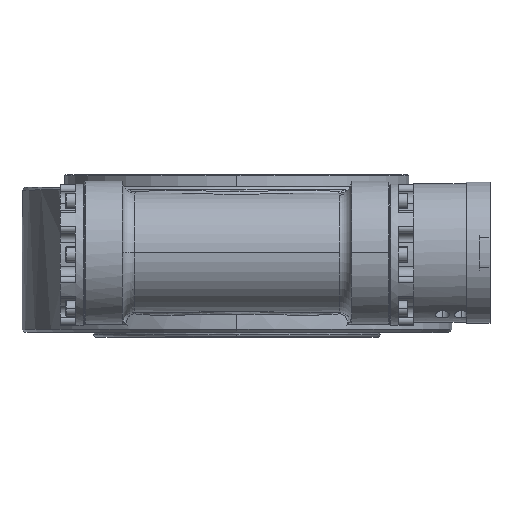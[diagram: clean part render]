
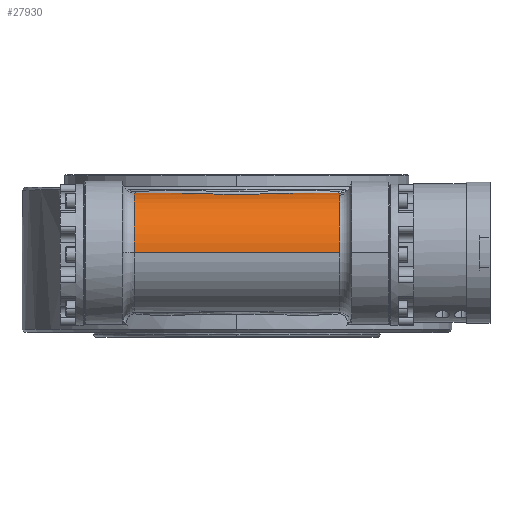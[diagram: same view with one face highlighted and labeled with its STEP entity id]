
A CAD part, top view. The second image highlights one B-rep face of the part: STEP entity #27930.
In plain terms, the highlighted cylindrical face has radius 62.5 mm (diameter 125 mm), a partial arc.
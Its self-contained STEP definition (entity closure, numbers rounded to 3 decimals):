
#245 = CARTESIAN_POINT ( 'NONE',  ( 23.238, 144.473, 226.283 ) ) ;
#1690 = CARTESIAN_POINT ( 'NONE',  ( 120., 83., 277.5 ) ) ;
#1750 = AXIS2_PLACEMENT_3D ( 'NONE', #28924, #9551, #31308 ) ;
#1840 = DIRECTION ( 'NONE',  ( 0., 0., -1. ) ) ;
#1964 = ORIENTED_EDGE ( 'NONE', *, *, #16148, .F. ) ;
#2383 = CARTESIAN_POINT ( 'NONE',  ( 99.117, 144.851, 205.823 ) ) ;
#2614 = CARTESIAN_POINT ( 'NONE',  ( -103.339, 144.532, 203.828 ) ) ;
#2701 = CARTESIAN_POINT ( 'NONE',  ( -107.5, 144.07, 201.705 ) ) ;
#2814 = CARTESIAN_POINT ( 'NONE',  ( 9.258, 144.284, 227.271 ) ) ;
#4160 = DIRECTION ( 'NONE',  ( -1., 0., 0. ) ) ;
#4444 = ORIENTED_EDGE ( 'NONE', *, *, #29882, .T. ) ;
#5095 = DIRECTION ( 'NONE',  ( 1., 0., 0. ) ) ;
#5418 = AXIS2_PLACEMENT_3D ( 'NONE', #24739, #5095, #27119 ) ;
#5489 = CARTESIAN_POINT ( 'NONE',  ( -64.316, 145.41, 218.617 ) ) ;
#6387 = VERTEX_POINT ( 'NONE', #10066 ) ;
#6648 = FACE_OUTER_BOUND ( 'NONE', #19633, .T. ) ;
#6999 = CARTESIAN_POINT ( 'NONE',  ( 86.187, 145.395, 211.275 ) ) ;
#7232 = CARTESIAN_POINT ( 'NONE',  ( 84.012, 145.438, 212.109 ) ) ;
#7704 = CIRCLE ( 'NONE', #23359, 62.5 ) ;
#7870 = CARTESIAN_POINT ( 'NONE',  ( -50.743, 145.113, 221.96 ) ) ;
#7980 = CARTESIAN_POINT ( 'NONE',  ( -18.551, 144.39, 226.728 ) ) ;
#9551 = DIRECTION ( 'NONE',  ( -1., 0., 0. ) ) ;
#10045 = CARTESIAN_POINT ( 'NONE',  ( 32.502, 144.66, 225.229 ) ) ;
#10066 = CARTESIAN_POINT ( 'NONE',  ( -107.5, 144.07, 201.705 ) ) ;
#10256 = B_SPLINE_CURVE_WITH_KNOTS ( 'NONE', 3,
 ( #26951, #26857, #2383, #19378, #31483, #6999, #7232, #19686, #20216, #15184, #10259, #29783, #27288, #17564, #10045, #20101, #245, #12533, #27199, #2814, #15286, #29972, #12729, #7980, #27391, #19998, #17330, #22575, #29560, #7870, #17438, #17744, #5489, #24710, #29654, #12646, #25003, #29886, #2614, #2701 ),
 .UNSPECIFIED., .F., .F.,
 ( 4, 2, 2, 2, 2, 2, 2, 2, 2, 2, 2, 2, 2, 2, 2, 2, 2, 2, 2, 4 ),
 ( 0., 0.014, 0.021, 0.028, 0.042, 0.056, 0.07, 0.084, 0.091, 0.098, 0.112, 0.127, 0.141, 0.155, 0.162, 0.169, 0.183, 0.197, 0.211, 0.225 ),
 .UNSPECIFIED. ) ;
#10259 = CARTESIAN_POINT ( 'NONE',  ( 59.74, 145.321, 219.85 ) ) ;
#11297 = CYLINDRICAL_SURFACE ( 'NONE', #1750, 62.5 ) ;
#11759 = CARTESIAN_POINT ( 'NONE',  ( 107.5, 83., 215. ) ) ;
#12533 = CARTESIAN_POINT ( 'NONE',  ( 18.576, 144.397, 226.693 ) ) ;
#12646 = CARTESIAN_POINT ( 'NONE',  ( -86.307, 145.409, 211.264 ) ) ;
#12729 = CARTESIAN_POINT ( 'NONE',  ( -9.303, 144.285, 227.268 ) ) ;
#15184 = CARTESIAN_POINT ( 'NONE',  ( 64.204, 145.408, 218.648 ) ) ;
#15286 = CARTESIAN_POINT ( 'NONE',  ( 4.61, 144.257, 227.405 ) ) ;
#15626 = LINE ( 'NONE', #1690, #29455 ) ;
#16148 = EDGE_CURVE ( 'NONE', #16707, #25814, #15626, .T. ) ;
#16552 = DIRECTION ( 'NONE',  ( -1., 0., 0. ) ) ;
#16707 = VERTEX_POINT ( 'NONE', #24594 ) ;
#17330 = CARTESIAN_POINT ( 'NONE',  ( -36.98, 144.768, 224.57 ) ) ;
#17438 = CARTESIAN_POINT ( 'NONE',  ( -53.022, 145.168, 221.452 ) ) ;
#17564 = CARTESIAN_POINT ( 'NONE',  ( 37.096, 144.771, 224.551 ) ) ;
#17744 = CARTESIAN_POINT ( 'NONE',  ( -59.826, 145.323, 219.829 ) ) ;
#19378 = CARTESIAN_POINT ( 'NONE',  ( 92.679, 145.182, 208.633 ) ) ;
#19633 = EDGE_LOOP ( 'NONE', ( #1964, #4444, #21734, #21354 ) ) ;
#19686 = CARTESIAN_POINT ( 'NONE',  ( 77.464, 145.519, 214.512 ) ) ;
#19998 = CARTESIAN_POINT ( 'NONE',  ( -32.381, 144.657, 225.245 ) ) ;
#20101 = CARTESIAN_POINT ( 'NONE',  ( 25.56, 144.517, 226.045 ) ) ;
#20216 = CARTESIAN_POINT ( 'NONE',  ( 73.066, 145.507, 215.978 ) ) ;
#20730 = EDGE_CURVE ( 'NONE', #26977, #6387, #10256, .T. ) ;
#21354 = ORIENTED_EDGE ( 'NONE', *, *, #26457, .T. ) ;
#21734 = ORIENTED_EDGE ( 'NONE', *, *, #20730, .T. ) ;
#22575 = CARTESIAN_POINT ( 'NONE',  ( -43.867, 144.941, 223.352 ) ) ;
#23359 = AXIS2_PLACEMENT_3D ( 'NONE', #11759, #16552, #1840 ) ;
#24594 = CARTESIAN_POINT ( 'NONE',  ( 107.5, 83., 277.5 ) ) ;
#24710 = CARTESIAN_POINT ( 'NONE',  ( -73.205, 145.507, 215.934 ) ) ;
#24739 = CARTESIAN_POINT ( 'NONE',  ( -107.5, 83., 215. ) ) ;
#25003 = CARTESIAN_POINT ( 'NONE',  ( -90.612, 145.289, 209.536 ) ) ;
#25814 = VERTEX_POINT ( 'NONE', #26997 ) ;
#26457 = EDGE_CURVE ( 'NONE', #6387, #25814, #30531, .T. ) ;
#26857 = CARTESIAN_POINT ( 'NONE',  ( 103.343, 144.531, 203.826 ) ) ;
#26951 = CARTESIAN_POINT ( 'NONE',  ( 107.5, 144.07, 201.705 ) ) ;
#26977 = VERTEX_POINT ( 'NONE', #27287 ) ;
#26997 = CARTESIAN_POINT ( 'NONE',  ( -107.5, 83., 277.5 ) ) ;
#27119 = DIRECTION ( 'NONE',  ( 0., 0., 1. ) ) ;
#27199 = CARTESIAN_POINT ( 'NONE',  ( 16.244, 144.364, 226.863 ) ) ;
#27287 = CARTESIAN_POINT ( 'NONE',  ( 107.5, 144.07, 201.705 ) ) ;
#27288 = CARTESIAN_POINT ( 'NONE',  ( 46.219, 145., 222.934 ) ) ;
#27391 = CARTESIAN_POINT ( 'NONE',  ( -23.167, 144.468, 226.324 ) ) ;
#27930 = ADVANCED_FACE ( 'NONE', ( #6648 ), #11297, .T. ) ;
#28924 = CARTESIAN_POINT ( 'NONE',  ( 120., 83., 215. ) ) ;
#29455 = VECTOR ( 'NONE', #4160, 1000. ) ;
#29560 = CARTESIAN_POINT ( 'NONE',  ( -46.16, 144.999, 222.911 ) ) ;
#29654 = CARTESIAN_POINT ( 'NONE',  ( -77.603, 145.518, 214.463 ) ) ;
#29783 = CARTESIAN_POINT ( 'NONE',  ( 50.748, 145.117, 221.993 ) ) ;
#29882 = EDGE_CURVE ( 'NONE', #16707, #26977, #7704, .T. ) ;
#29886 = CARTESIAN_POINT ( 'NONE',  ( -99.128, 144.85, 205.817 ) ) ;
#29972 = CARTESIAN_POINT ( 'NONE',  ( -4.671, 144.257, 227.404 ) ) ;
#30531 = CIRCLE ( 'NONE', #5418, 62.5 ) ;
#31308 = DIRECTION ( 'NONE',  ( 0., 0., 1. ) ) ;
#31483 = CARTESIAN_POINT ( 'NONE',  ( 90.519, 145.267, 209.537 ) ) ;
